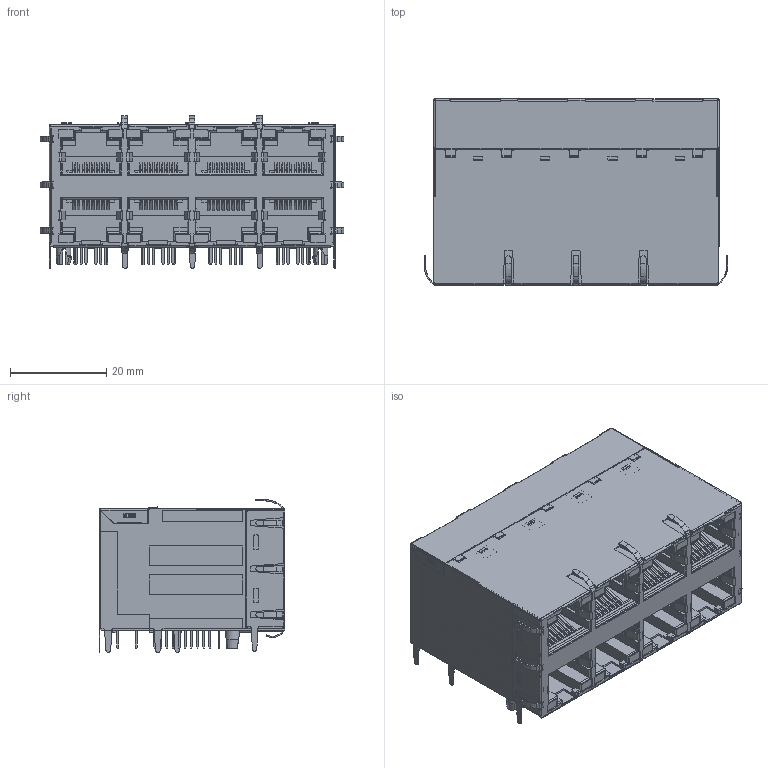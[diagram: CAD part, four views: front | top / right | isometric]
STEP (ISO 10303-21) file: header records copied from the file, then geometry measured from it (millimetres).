
FILE_DESCRIPTION (( 'STEP AP203' ), '1' );
FILE_NAME ('2X4 PoE.STEP', '2024-11-06T02:30:04', ( '' ), ( '' ), 'SwSTEP 2.0', 'SolidWorks 2020', '' );
FILE_SCHEMA (( 'CONFIG_CONTROL_DESIGN' ));
Length unit declared in the file: millimetre
Products named in the file (15): F shell-1.STEP; ____-1.STEP; LED PIN-2-1.STEP; PoE____-2-1.STEP; LED-2-1.STEP; CK01_1-1-1.STEP; PIN1-2-1.STEP; PoE Y-2-1.STEP; PIN2-2-1.STEP; LED1-2-1.STEP; 2X4HSG-2-1.STEP; PINCX03_1-1-1.STEP; P__-2-1.STEP; 2X4 PoE; CX02_1-1-1.STEP
Assembly tree (176 placements, depth 2):
  2X4 PoE
    2X4HSG-2-1.STEP
    P__-2-1.STEP  x4
    PIN1-2-1.STEP  x48
    PIN2-2-1.STEP  x48
    LED PIN-2-1.STEP  x32
    CK01_1-1-1.STEP  x4
    CX02_1-1-1.STEP  x8
    PINCX03_1-1-1.STEP  x8
    PoE____-2-1.STEP
    PoE Y-2-1.STEP  x4
    LED-2-1.STEP  x8
    LED1-2-1.STEP  x8
    F shell-1.STEP
    ____-1.STEP
Bounding box: 63.02 x 38.55 x 31.67 mm (x, y, z)
Volume: 16733 mm3; surface area: 54400.5 mm2
Topology: 232 solids, 232 shells, 9420 faces, 26158 edges, 17084 vertices
Faces by surface type: plane 7988, cylinder 1372, bspline 54, cone 6
Entity records: 118299 total; most frequent: CARTESIAN_POINT 27255, ORIENTED_EDGE 19126, DIRECTION 15608, EDGE_CURVE 9563, LINE 7486, VECTOR 7486, VERTEX_POINT 6278, AXIS2_PLACEMENT_3D 4061
